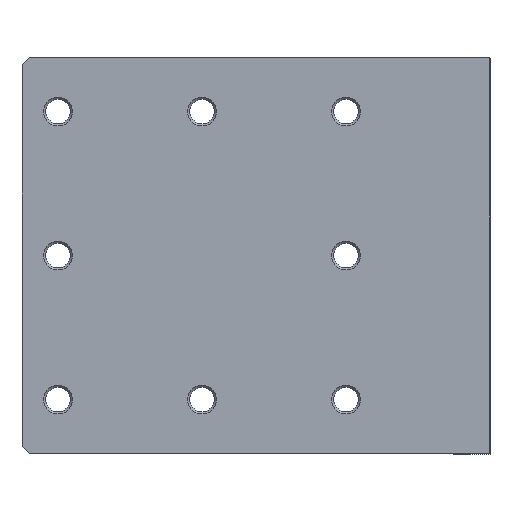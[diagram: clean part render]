
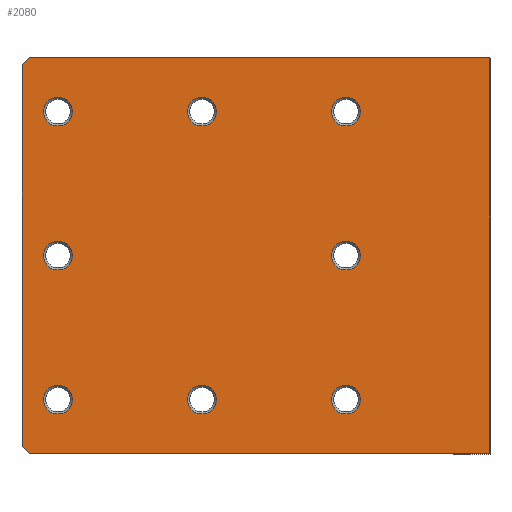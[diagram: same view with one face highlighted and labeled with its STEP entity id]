
A CAD part, top view. The second image highlights one B-rep face of the part: STEP entity #2080.
In plain terms, the highlighted planar face has unit normal (0, 0, 1).
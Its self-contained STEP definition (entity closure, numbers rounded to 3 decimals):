
#26=PLANE('',#2313);
#56=LINE('',#3367,#162);
#60=LINE('',#3376,#166);
#82=LINE('',#3537,#188);
#85=LINE('',#3543,#191);
#87=LINE('',#3546,#193);
#88=LINE('',#3547,#194);
#162=VECTOR('',#2643,1000.);
#166=VECTOR('',#2649,1000.);
#188=VECTOR('',#2843,1000.);
#191=VECTOR('',#2848,1000.);
#193=VECTOR('',#2852,1000.);
#194=VECTOR('',#2853,1000.);
#530=ORIENTED_EDGE('',*,*,#1059,.F.);
#531=ORIENTED_EDGE('',*,*,#988,.T.);
#532=ORIENTED_EDGE('',*,*,#1057,.T.);
#533=ORIENTED_EDGE('',*,*,#1060,.T.);
#534=ORIENTED_EDGE('',*,*,#1054,.F.);
#535=ORIENTED_EDGE('',*,*,#984,.F.);
#536=ORIENTED_EDGE('',*,*,#1045,.T.);
#537=ORIENTED_EDGE('',*,*,#1041,.T.);
#538=ORIENTED_EDGE('',*,*,#1037,.T.);
#539=ORIENTED_EDGE('',*,*,#1033,.T.);
#540=ORIENTED_EDGE('',*,*,#1029,.T.);
#541=ORIENTED_EDGE('',*,*,#1025,.T.);
#542=ORIENTED_EDGE('',*,*,#1021,.T.);
#543=ORIENTED_EDGE('',*,*,#1017,.T.);
#984=EDGE_CURVE('',#1262,#1263,#56,.T.);
#988=EDGE_CURVE('',#1267,#1266,#60,.T.);
#1017=EDGE_CURVE('',#1285,#1285,#1473,.T.);
#1021=EDGE_CURVE('',#1289,#1289,#1477,.T.);
#1025=EDGE_CURVE('',#1293,#1293,#1481,.T.);
#1029=EDGE_CURVE('',#1297,#1297,#1485,.T.);
#1033=EDGE_CURVE('',#1301,#1301,#1489,.T.);
#1037=EDGE_CURVE('',#1305,#1305,#1493,.T.);
#1041=EDGE_CURVE('',#1309,#1309,#1497,.T.);
#1045=EDGE_CURVE('',#1313,#1313,#1501,.T.);
#1054=EDGE_CURVE('',#1263,#1318,#82,.T.);
#1057=EDGE_CURVE('',#1266,#1321,#85,.T.);
#1059=EDGE_CURVE('',#1267,#1262,#87,.T.);
#1060=EDGE_CURVE('',#1321,#1318,#88,.T.);
#1262=VERTEX_POINT('',#3366);
#1263=VERTEX_POINT('',#3368);
#1266=VERTEX_POINT('',#3375);
#1267=VERTEX_POINT('',#3377);
#1285=VERTEX_POINT('',#3441);
#1289=VERTEX_POINT('',#3452);
#1293=VERTEX_POINT('',#3463);
#1297=VERTEX_POINT('',#3474);
#1301=VERTEX_POINT('',#3485);
#1305=VERTEX_POINT('',#3496);
#1309=VERTEX_POINT('',#3507);
#1313=VERTEX_POINT('',#3518);
#1318=VERTEX_POINT('',#3533);
#1321=VERTEX_POINT('',#3542);
#1473=CIRCLE('',#2254,2.);
#1477=CIRCLE('',#2261,2.);
#1481=CIRCLE('',#2268,2.);
#1485=CIRCLE('',#2275,2.);
#1489=CIRCLE('',#2282,2.);
#1493=CIRCLE('',#2289,2.);
#1497=CIRCLE('',#2296,2.);
#1501=CIRCLE('',#2303,2.);
#1702=EDGE_LOOP('',(#530,#531,#532,#533,#534,#535));
#1703=EDGE_LOOP('',(#536));
#1704=EDGE_LOOP('',(#537));
#1705=EDGE_LOOP('',(#538));
#1706=EDGE_LOOP('',(#539));
#1707=EDGE_LOOP('',(#540));
#1708=EDGE_LOOP('',(#541));
#1709=EDGE_LOOP('',(#542));
#1710=EDGE_LOOP('',(#543));
#1884=FACE_BOUND('',#1702,.T.);
#1885=FACE_BOUND('',#1703,.T.);
#1886=FACE_BOUND('',#1704,.T.);
#1887=FACE_BOUND('',#1705,.T.);
#1888=FACE_BOUND('',#1706,.T.);
#1889=FACE_BOUND('',#1707,.T.);
#1890=FACE_BOUND('',#1708,.T.);
#1891=FACE_BOUND('',#1709,.T.);
#1892=FACE_BOUND('',#1710,.T.);
#2080=ADVANCED_FACE('',(#1884,#1885,#1886,#1887,#1888,#1889,#1890,#1891,
#1892),#26,.T.);
#2254=AXIS2_PLACEMENT_3D('',#3440,#2723,#2724);
#2261=AXIS2_PLACEMENT_3D('',#3451,#2737,#2738);
#2268=AXIS2_PLACEMENT_3D('',#3462,#2751,#2752);
#2275=AXIS2_PLACEMENT_3D('',#3473,#2765,#2766);
#2282=AXIS2_PLACEMENT_3D('',#3484,#2779,#2780);
#2289=AXIS2_PLACEMENT_3D('',#3495,#2793,#2794);
#2296=AXIS2_PLACEMENT_3D('',#3506,#2807,#2808);
#2303=AXIS2_PLACEMENT_3D('',#3517,#2821,#2822);
#2313=AXIS2_PLACEMENT_3D('',#3545,#2850,#2851);
#2643=DIRECTION('',(0.707,0.707,0.));
#2649=DIRECTION('',(0.707,-0.707,0.));
#2723=DIRECTION('',(0.,0.,-1.));
#2724=DIRECTION('',(1.,0.,0.));
#2737=DIRECTION('',(0.,0.,-1.));
#2738=DIRECTION('',(1.,0.,0.));
#2751=DIRECTION('',(0.,0.,-1.));
#2752=DIRECTION('',(1.,0.,0.));
#2765=DIRECTION('',(0.,0.,-1.));
#2766=DIRECTION('',(1.,0.,0.));
#2779=DIRECTION('',(0.,0.,-1.));
#2780=DIRECTION('',(1.,0.,0.));
#2793=DIRECTION('',(0.,0.,-1.));
#2794=DIRECTION('',(1.,0.,0.));
#2807=DIRECTION('',(0.,0.,-1.));
#2808=DIRECTION('',(1.,0.,0.));
#2821=DIRECTION('',(0.,0.,-1.));
#2822=DIRECTION('',(1.,0.,0.));
#2843=DIRECTION('',(1.,0.,0.));
#2848=DIRECTION('',(1.,0.,0.));
#2850=DIRECTION('',(0.,0.,1.));
#2851=DIRECTION('',(1.,0.,0.));
#2852=DIRECTION('',(0.,1.,0.));
#2853=DIRECTION('',(0.,1.,0.));
#3366=CARTESIAN_POINT('',(-60.,26.5,35.));
#3367=CARTESIAN_POINT('',(-87.,-0.5,35.));
#3368=CARTESIAN_POINT('',(-59.,27.5,35.));
#3375=CARTESIAN_POINT('',(-59.,-27.5,35.));
#3376=CARTESIAN_POINT('',(-59.5,-27.,35.));
#3377=CARTESIAN_POINT('',(-60.,-26.5,35.));
#3440=CARTESIAN_POINT('',(-35.,20.,35.));
#3441=CARTESIAN_POINT('',(-33.,20.,35.));
#3451=CARTESIAN_POINT('',(-35.,-20.,35.));
#3452=CARTESIAN_POINT('',(-33.,-20.,35.));
#3462=CARTESIAN_POINT('',(-15.,0.,35.));
#3463=CARTESIAN_POINT('',(-13.,0.,35.));
#3473=CARTESIAN_POINT('',(-55.,0.,35.));
#3474=CARTESIAN_POINT('',(-53.,0.,35.));
#3484=CARTESIAN_POINT('',(-55.,-20.,35.));
#3485=CARTESIAN_POINT('',(-53.,-20.,35.));
#3495=CARTESIAN_POINT('',(-55.,20.,35.));
#3496=CARTESIAN_POINT('',(-53.,20.,35.));
#3506=CARTESIAN_POINT('',(-15.,20.,35.));
#3507=CARTESIAN_POINT('',(-13.,20.,35.));
#3517=CARTESIAN_POINT('',(-15.,-20.,35.));
#3518=CARTESIAN_POINT('',(-13.,-20.,35.));
#3533=CARTESIAN_POINT('',(5.,27.5,35.));
#3537=CARTESIAN_POINT('',(-60.,27.5,35.));
#3542=CARTESIAN_POINT('',(5.,-27.5,35.));
#3543=CARTESIAN_POINT('',(-60.,-27.5,35.));
#3545=CARTESIAN_POINT('',(-60.,-27.5,35.));
#3546=CARTESIAN_POINT('',(-60.,-27.5,35.));
#3547=CARTESIAN_POINT('',(5.,-27.5,35.));
